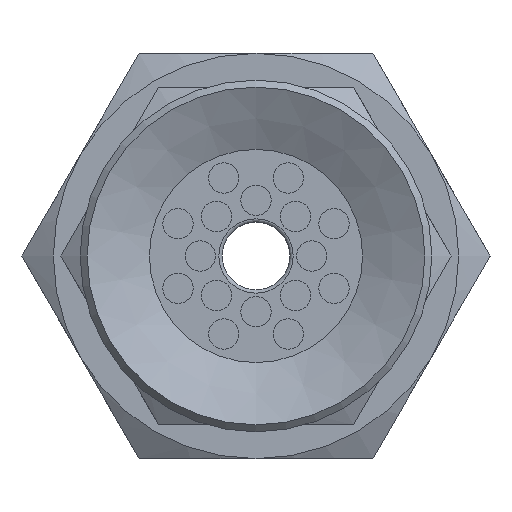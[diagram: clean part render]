
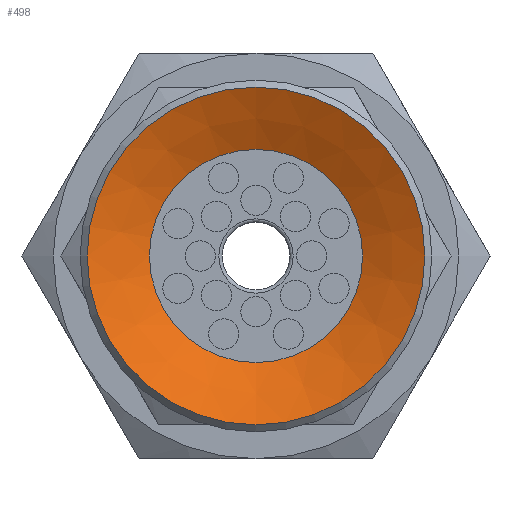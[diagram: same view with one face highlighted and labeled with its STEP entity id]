
A CAD part, front view. The second image highlights one B-rep face of the part: STEP entity #498.
In plain terms, the highlighted conical face has half-angle 64 degrees and reference radius 5 mm.
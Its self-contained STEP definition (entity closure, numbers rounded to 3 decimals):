
#498=ADVANCED_FACE('',(#801,#802),#803,.F.);
#801=FACE_BOUND('',#1146,.T.);
#802=FACE_OUTER_BOUND('',#1147,.T.);
#803=CONICAL_SURFACE('',#1148,5.0,1.117);
#1146=EDGE_LOOP('',(#1830));
#1147=EDGE_LOOP('',(#1831));
#1148=AXIS2_PLACEMENT_3D('',#1832,#1833,#1834);
#1830=ORIENTED_EDGE('',*,*,#2186,.T.);
#1831=ORIENTED_EDGE('',*,*,#2176,.F.);
#1832=CARTESIAN_POINT('',(0.0,0.,0.));
#1833=DIRECTION('',(0.0,0.,-1.0));
#1834=DIRECTION('',(0.0,1.0,0.));
#2176=EDGE_CURVE('',#2493,#2493,#2494,.T.);
#2186=EDGE_CURVE('',#2513,#2513,#2514,.T.);
#2493=VERTEX_POINT('',#3149);
#2494=CIRCLE('',#3150,5.0);
#2513=VERTEX_POINT('',#3169);
#2514=CIRCLE('',#3170,3.155);
#3149=CARTESIAN_POINT('',(0.0,-5.0,0.));
#3150=AXIS2_PLACEMENT_3D('',#3575,#3576,#3577);
#3169=CARTESIAN_POINT('',(0.0,-3.155,0.9));
#3170=AXIS2_PLACEMENT_3D('',#3605,#3606,#3607);
#3575=CARTESIAN_POINT('',(0.0,0.,0.));
#3576=DIRECTION('',(0.0,0.,1.0));
#3577=DIRECTION('',(0.0,-1.0,0.));
#3605=CARTESIAN_POINT('',(0.0,0.,0.9));
#3606=DIRECTION('',(0.0,0.,1.0));
#3607=DIRECTION('',(0.0,-1.0,0.));
